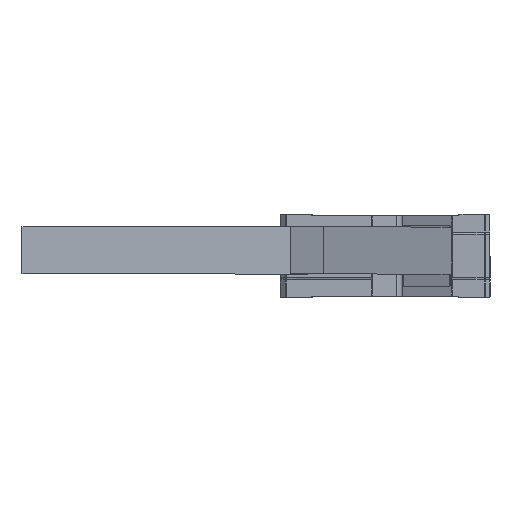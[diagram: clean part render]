
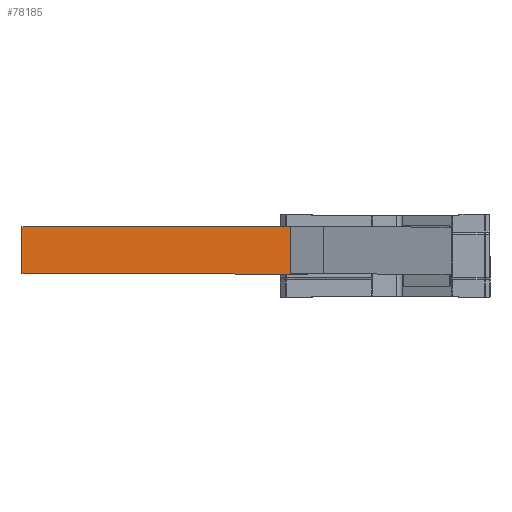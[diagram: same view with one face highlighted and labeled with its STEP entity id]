
A CAD part, top view. The second image highlights one B-rep face of the part: STEP entity #78185.
In plain terms, the highlighted planar face has unit normal (-0.693, 0, -0.721).
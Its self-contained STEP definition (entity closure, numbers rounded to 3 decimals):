
#1329 = DIRECTION ( 'NONE',  ( 0., 1., 0. ) ) ;
#2165 = ORIENTED_EDGE ( 'NONE', *, *, #101161, .T. ) ;
#7786 = CARTESIAN_POINT ( 'NONE',  ( -29.5, -7., 40. ) ) ;
#9784 = CARTESIAN_POINT ( 'NONE',  ( -138.7, 11., 145. ) ) ;
#11837 = CARTESIAN_POINT ( 'NONE',  ( -29.5, -7., 40. ) ) ;
#12273 = CARTESIAN_POINT ( 'NONE',  ( -29.5, -7., 40. ) ) ;
#13433 = CARTESIAN_POINT ( 'NONE',  ( -29.5, -7., 40. ) ) ;
#15667 = EDGE_CURVE ( 'NONE', #50135, #64666, #44047, .T. ) ;
#16431 = CARTESIAN_POINT ( 'NONE',  ( -29.5, 11., 40. ) ) ;
#20178 = DIRECTION ( 'NONE',  ( 0., 1., 0. ) ) ;
#23403 = DIRECTION ( 'NONE',  ( -0.693, 0., -0.721 ) ) ;
#23684 = LINE ( 'NONE', #55441, #63746 ) ;
#31251 = AXIS2_PLACEMENT_3D ( 'NONE', #7786, #23403, #47364 ) ;
#35181 = ORIENTED_EDGE ( 'NONE', *, *, #47253, .F. ) ;
#40626 = EDGE_CURVE ( 'NONE', #51947, #78107, #45166, .T. ) ;
#43017 = DIRECTION ( 'NONE',  ( -0.721, 0., 0.693 ) ) ;
#44047 = LINE ( 'NONE', #91207, #80904 ) ;
#44605 = LINE ( 'NONE', #11837, #52785 ) ;
#45166 = LINE ( 'NONE', #13433, #62637 ) ;
#47253 = EDGE_CURVE ( 'NONE', #51947, #50135, #44605, .T. ) ;
#47364 = DIRECTION ( 'NONE',  ( -0.721, 0., 0.693 ) ) ;
#50135 = VERTEX_POINT ( 'NONE', #16431 ) ;
#51947 = VERTEX_POINT ( 'NONE', #12273 ) ;
#52422 = EDGE_LOOP ( 'NONE', ( #94315, #35181, #53063, #2165 ) ) ;
#52785 = VECTOR ( 'NONE', #20178, 1000. ) ;
#53063 = ORIENTED_EDGE ( 'NONE', *, *, #40626, .T. ) ;
#55441 = CARTESIAN_POINT ( 'NONE',  ( -138.7, -7., 145. ) ) ;
#57379 = CARTESIAN_POINT ( 'NONE',  ( -138.7, -7., 145. ) ) ;
#60182 = DIRECTION ( 'NONE',  ( -0.721, 0., 0.693 ) ) ;
#62364 = FACE_OUTER_BOUND ( 'NONE', #52422, .T. ) ;
#62637 = VECTOR ( 'NONE', #60182, 1000. ) ;
#63746 = VECTOR ( 'NONE', #1329, 1000. ) ;
#64666 = VERTEX_POINT ( 'NONE', #9784 ) ;
#78107 = VERTEX_POINT ( 'NONE', #57379 ) ;
#78185 = ADVANCED_FACE ( 'NONE', ( #62364 ), #94463, .T. ) ;
#80904 = VECTOR ( 'NONE', #43017, 1000. ) ;
#91207 = CARTESIAN_POINT ( 'NONE',  ( -29.5, 11., 40. ) ) ;
#94315 = ORIENTED_EDGE ( 'NONE', *, *, #15667, .F. ) ;
#94463 = PLANE ( 'NONE',  #31251 ) ;
#101161 = EDGE_CURVE ( 'NONE', #78107, #64666, #23684, .T. ) ;
